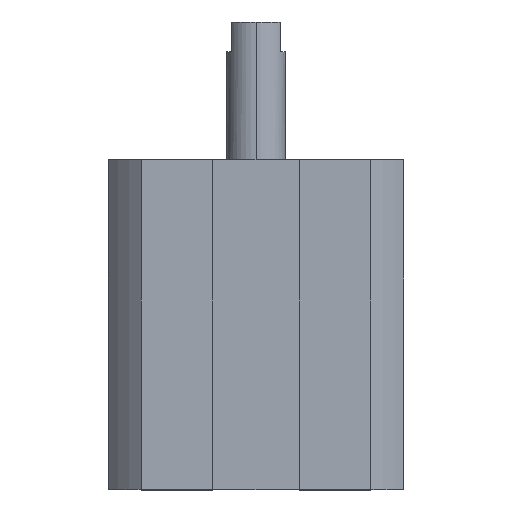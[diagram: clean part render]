
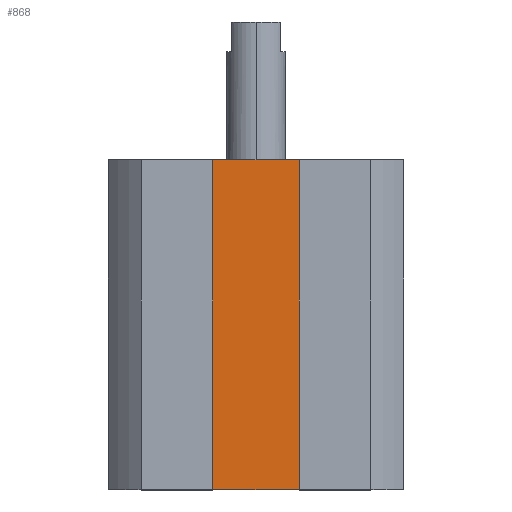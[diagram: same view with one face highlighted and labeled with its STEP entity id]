
A CAD part, top view. The second image highlights one B-rep face of the part: STEP entity #868.
In plain terms, the highlighted planar face has unit normal (0, 0, 1).
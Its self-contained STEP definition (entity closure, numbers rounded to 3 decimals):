
#73 = CARTESIAN_POINT ( 'NONE',  ( -4.4, -33.5, 10. ) ) ;
#151 = ORIENTED_EDGE ( 'NONE', *, *, #1890, .T. ) ;
#153 = PLANE ( 'NONE',  #2199 ) ;
#315 = DIRECTION ( 'NONE',  ( 1., 0., 0. ) ) ;
#587 = ORIENTED_EDGE ( 'NONE', *, *, #812, .F. ) ;
#601 = ORIENTED_EDGE ( 'NONE', *, *, #1439, .F. ) ;
#613 = LINE ( 'NONE', #1724, #1430 ) ;
#812 = EDGE_CURVE ( 'NONE', #1774, #2149, #1849, .T. ) ;
#821 = ORIENTED_EDGE ( 'NONE', *, *, #1231, .T. ) ;
#851 = DIRECTION ( 'NONE',  ( 0., 1., 0. ) ) ;
#868 = ADVANCED_FACE ( 'NONE', ( #1029 ), #153, .T. ) ;
#869 = CARTESIAN_POINT ( 'NONE',  ( -4.4, -33.5, 10. ) ) ;
#874 = DIRECTION ( 'NONE',  ( 1., 0., 0. ) ) ;
#880 = DIRECTION ( 'NONE',  ( 0., 0., 1. ) ) ;
#1029 = FACE_OUTER_BOUND ( 'NONE', #1368, .T. ) ;
#1070 = CARTESIAN_POINT ( 'NONE',  ( 4.4, -33.5, 10. ) ) ;
#1072 = VECTOR ( 'NONE', #315, 1000. ) ;
#1115 = VERTEX_POINT ( 'NONE', #73 ) ;
#1131 = VECTOR ( 'NONE', #874, 1000. ) ;
#1182 = CARTESIAN_POINT ( 'NONE',  ( 0., 0., 10. ) ) ;
#1231 = EDGE_CURVE ( 'NONE', #1115, #2137, #2089, .T. ) ;
#1238 = VECTOR ( 'NONE', #2085, 1000. ) ;
#1368 = EDGE_LOOP ( 'NONE', ( #587, #601, #821, #151 ) ) ;
#1385 = CARTESIAN_POINT ( 'NONE',  ( 0., -33.5, 10. ) ) ;
#1430 = VECTOR ( 'NONE', #851, 1000. ) ;
#1439 = EDGE_CURVE ( 'NONE', #1115, #1774, #1627, .T. ) ;
#1529 = CARTESIAN_POINT ( 'NONE',  ( 0., -33.5, 10. ) ) ;
#1533 = DIRECTION ( 'NONE',  ( 1., 0., 0. ) ) ;
#1627 = LINE ( 'NONE', #869, #1238 ) ;
#1724 = CARTESIAN_POINT ( 'NONE',  ( 4.4, -33.5, 10. ) ) ;
#1774 = VERTEX_POINT ( 'NONE', #1874 ) ;
#1849 = LINE ( 'NONE', #1182, #1131 ) ;
#1874 = CARTESIAN_POINT ( 'NONE',  ( -4.4, 0., 10. ) ) ;
#1890 = EDGE_CURVE ( 'NONE', #2137, #2149, #613, .T. ) ;
#1972 = CARTESIAN_POINT ( 'NONE',  ( 4.4, 0., 10. ) ) ;
#2085 = DIRECTION ( 'NONE',  ( 0., 1., 0. ) ) ;
#2089 = LINE ( 'NONE', #1529, #1072 ) ;
#2137 = VERTEX_POINT ( 'NONE', #1070 ) ;
#2149 = VERTEX_POINT ( 'NONE', #1972 ) ;
#2199 = AXIS2_PLACEMENT_3D ( 'NONE', #1385, #880, #1533 ) ;
